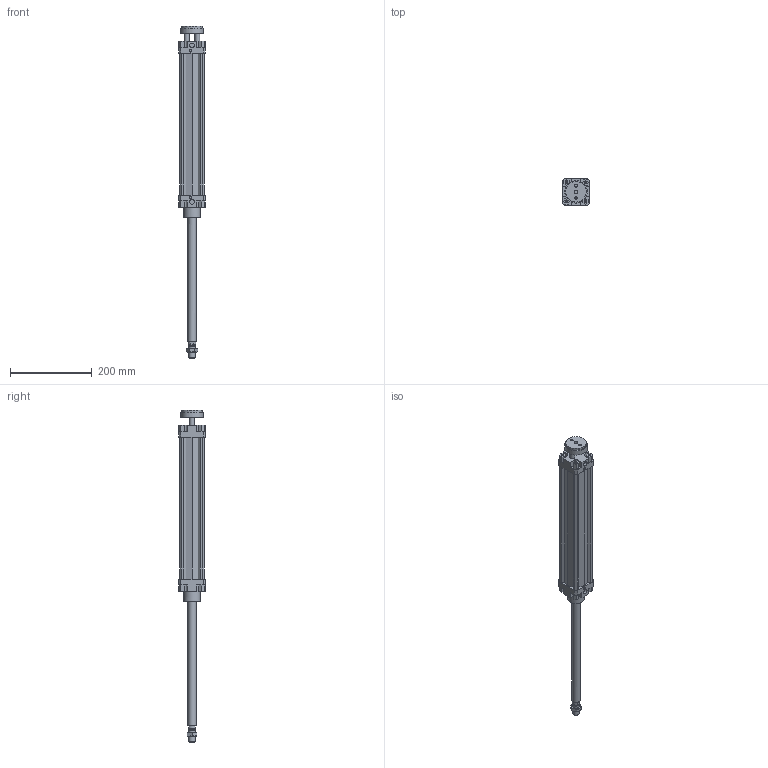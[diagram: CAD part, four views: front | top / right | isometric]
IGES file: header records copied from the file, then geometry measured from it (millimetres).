
Global section: file name: 132#_050_0300_02; native system: Autodesk Inventor 2014; preprocessor: unknown; author: A. Manieri; date: 20161006.155806; units: millimetre
Bounding box: 65 x 65 x 812 mm (x, y, z)
Volume: 928849.5 mm3; surface area: 261957.9 mm2
Topology: 3 solids, 3 shells, 220 faces, 590 edges, 398 vertices
Faces by surface type: bspline 220
